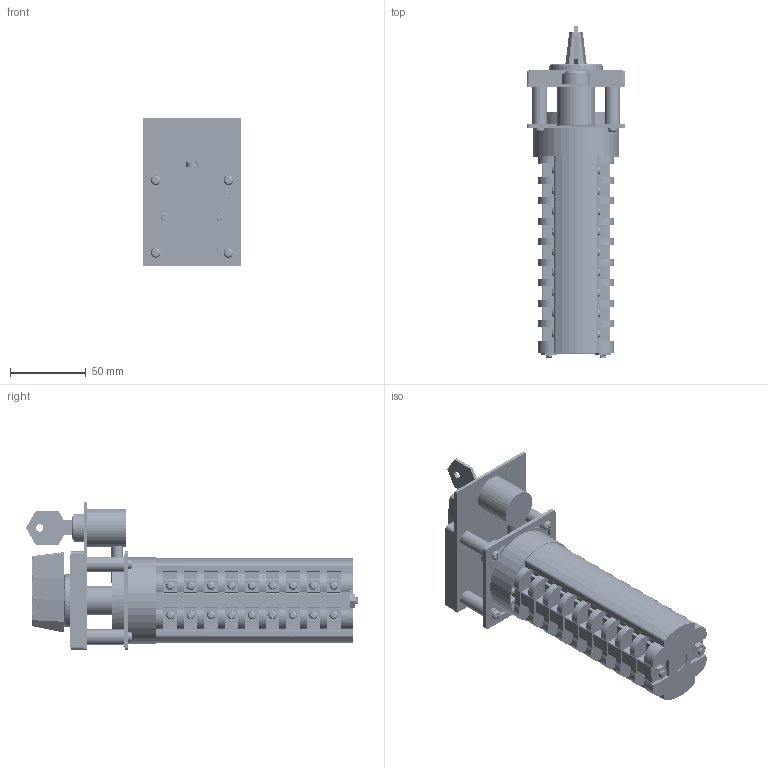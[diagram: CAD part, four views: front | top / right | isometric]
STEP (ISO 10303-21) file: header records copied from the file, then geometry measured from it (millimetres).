
FILE_DESCRIPTION(/* description */ (''),/* implementation_level */ '2;1');
FILE_NAME(/* name */ '4G16,25_S5_9_korpusow.stp',/* time_stamp */ '2021-07-21T12:27:49+02:00',/* author */ (''),/* organization */ (''),/* preprocessor_version */ 'ST-DEVELOPER v18.1',/* originating_system */ 'SIEMENS PLM Software NX 1965',/* authorisation */ '');
FILE_SCHEMA (('AUTOMOTIVE_DESIGN { 1 0 10303 214 3 1 1 1 }'));
Products named in the file (1): 4G16,25_S5_9_korpusow_stp
Bounding box: 65 x 219.1 x 97.5 mm (x, y, z)
Volume: 405460.7 mm3; surface area: 95439.7 mm2
Topology: 2 solids, 13 shells, 2044 faces, 5701 edges, 3763 vertices
Faces by surface type: plane 1225, cylinder 549, bspline 191, cone 76, sphere 2, torus 1
Full cylindrical faces by diameter (mm): 3.3 x2, 4 x4, 4.3 x4, 5 x3, 5.4 x37, 6.4 x4, 6.5 x2, 7.2 x4, 7.5 x1, 10 x5, 14 x1, 15.8 x1, 19 x2, 21.2 x1, 25 x1, 35 x1, 57 x1
Entity records: 186490 total; most frequent: CARTESIAN_POINT 136446, ORIENTED_EDGE 10946, DIRECTION 9390, EDGE_CURVE 5473, VERTEX_POINT 3659, AXIS2_PLACEMENT_3D 3375, LINE 2640, VECTOR 2640
